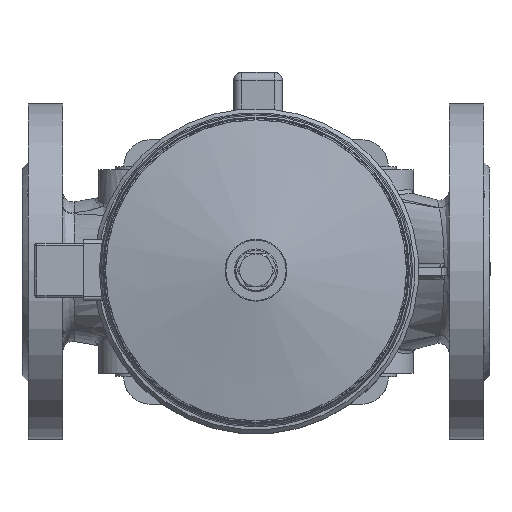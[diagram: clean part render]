
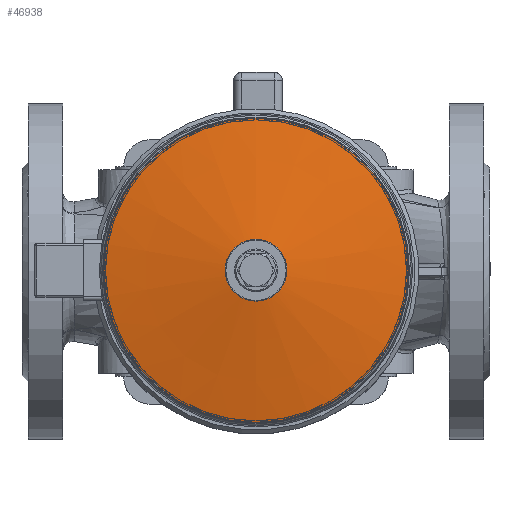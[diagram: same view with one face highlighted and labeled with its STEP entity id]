
A CAD part, top view. The second image highlights one B-rep face of the part: STEP entity #46938.
In plain terms, the highlighted conical face has half-angle 79.668 degrees and reference radius 45.577 mm.
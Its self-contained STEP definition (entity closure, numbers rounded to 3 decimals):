
#46876=CARTESIAN_POINT('',(0.,74.706,378.116));
#46877=VERTEX_POINT('',#46876);
#46878=CARTESIAN_POINT('',(0.,0.,378.116));
#46879=DIRECTION('',(0.0,0.0,-1.0));
#46880=DIRECTION('',(0.0,-1.0,0.0));
#46881=AXIS2_PLACEMENT_3D('',#46878,#46879,#46880);
#46882=CIRCLE('',#46881,74.706);
#46883=EDGE_CURVE('',#46877,#46877,#46882,.T.);
#46919=CARTESIAN_POINT('',(0.,0.,383.426));
#46920=DIRECTION('',(0.,0.,-1.0));
#46921=DIRECTION('',(0.0,1.0,0.0));
#46922=AXIS2_PLACEMENT_3D('',#46919,#46920,#46921);
#46923=CONICAL_SURFACE('',#46922,45.576,79.668);
#46924=ORIENTED_EDGE('',*,*,#46883,.F.);
#46925=EDGE_LOOP('',(#46924));
#46926=FACE_OUTER_BOUND('',#46925,.T.);
#46927=CARTESIAN_POINT('',(0.,15.178,388.968));
#46928=VERTEX_POINT('',#46927);
#46929=CARTESIAN_POINT('',(0.,0.,388.968));
#46930=DIRECTION('',(0.0,0.0,1.0));
#46931=DIRECTION('',(0.0,-1.0,0.0));
#46932=AXIS2_PLACEMENT_3D('',#46929,#46930,#46931);
#46933=CIRCLE('',#46932,15.178);
#46934=EDGE_CURVE('',#46928,#46928,#46933,.T.);
#46935=ORIENTED_EDGE('',*,*,#46934,.F.);
#46936=EDGE_LOOP('',(#46935));
#46937=FACE_BOUND('',#46936,.T.);
#46938=ADVANCED_FACE('',(#46926,#46937),#46923,.T.);
